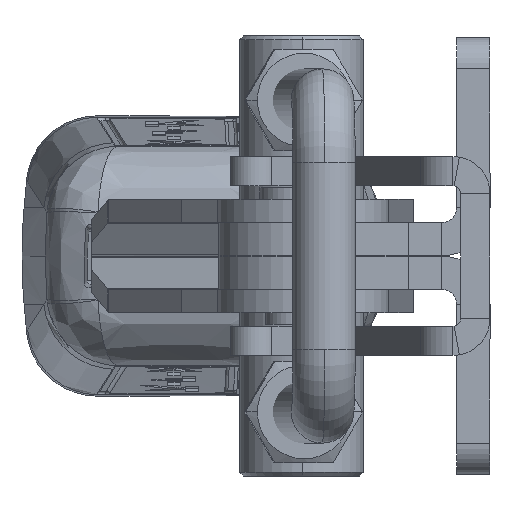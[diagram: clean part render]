
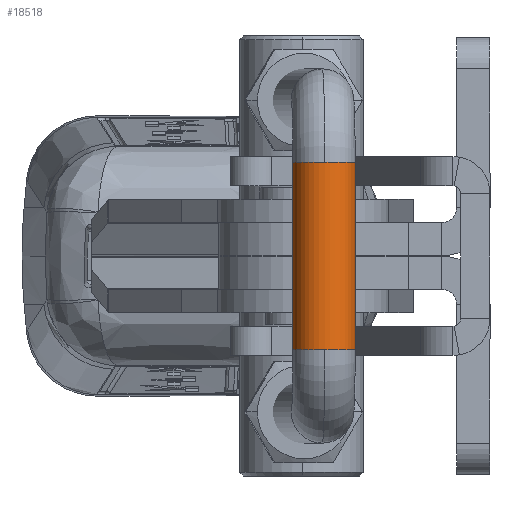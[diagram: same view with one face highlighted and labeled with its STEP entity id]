
A CAD part, left-side view. The second image highlights one B-rep face of the part: STEP entity #18518.
In plain terms, the highlighted cylindrical face has radius 4 mm (diameter 8 mm), a partial arc.
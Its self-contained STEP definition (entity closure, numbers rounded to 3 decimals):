
#593 = DIRECTION ( 'NONE',  ( 1., 0., 0. ) ) ;
#1048 = EDGE_CURVE ( 'NONE', #14113, #15171, #17220, .T. ) ;
#1266 = DIRECTION ( 'NONE',  ( 1., 0., 0. ) ) ;
#2029 = VERTEX_POINT ( 'NONE', #8994 ) ;
#2319 = VERTEX_POINT ( 'NONE', #23281 ) ;
#2573 = EDGE_CURVE ( 'NONE', #15171, #2319, #2668, .T. ) ;
#2668 = CIRCLE ( 'NONE', #24299, 4. ) ;
#3574 = VECTOR ( 'NONE', #22548, 1000. ) ;
#4577 = CARTESIAN_POINT ( 'NONE',  ( 12., 134., 0. ) ) ;
#4583 = AXIS2_PLACEMENT_3D ( 'NONE', #11923, #593, #13841 ) ;
#5147 = CYLINDRICAL_SURFACE ( 'NONE', #14851, 4. ) ;
#6485 = CARTESIAN_POINT ( 'NONE',  ( 12., 130., -4. ) ) ;
#8118 = CARTESIAN_POINT ( 'NONE',  ( -12., 130., 0. ) ) ;
#8742 = CIRCLE ( 'NONE', #12802, 4. ) ;
#8799 = DIRECTION ( 'NONE',  ( 1., 0., 0. ) ) ;
#8994 = CARTESIAN_POINT ( 'NONE',  ( -12., 130., -4. ) ) ;
#9219 = LINE ( 'NONE', #9299, #3574 ) ;
#9299 = CARTESIAN_POINT ( 'NONE',  ( -12., 130., 4. ) ) ;
#10201 = ORIENTED_EDGE ( 'NONE', *, *, #10862, .F. ) ;
#10862 = EDGE_CURVE ( 'NONE', #2029, #14113, #24529, .T. ) ;
#11173 = DIRECTION ( 'NONE',  ( 1., 0., 0. ) ) ;
#11888 = DIRECTION ( 'NONE',  ( 0., 0., -1. ) ) ;
#11923 = CARTESIAN_POINT ( 'NONE',  ( 12., 130., 0. ) ) ;
#12593 = CARTESIAN_POINT ( 'NONE',  ( -12., 130., 0. ) ) ;
#12649 = ORIENTED_EDGE ( 'NONE', *, *, #2573, .F. ) ;
#12802 = AXIS2_PLACEMENT_3D ( 'NONE', #20142, #8799, #22033 ) ;
#13841 = DIRECTION ( 'NONE',  ( 0., 0., 1. ) ) ;
#14113 = VERTEX_POINT ( 'NONE', #6485 ) ;
#14228 = ORIENTED_EDGE ( 'NONE', *, *, #21456, .T. ) ;
#14491 = DIRECTION ( 'NONE',  ( 0., 0., 1. ) ) ;
#14710 = CARTESIAN_POINT ( 'NONE',  ( -12., 130., 4. ) ) ;
#14851 = AXIS2_PLACEMENT_3D ( 'NONE', #8118, #19368, #11888 ) ;
#15171 = VERTEX_POINT ( 'NONE', #4577 ) ;
#16633 = ORIENTED_EDGE ( 'NONE', *, *, #1048, .F. ) ;
#16830 = ORIENTED_EDGE ( 'NONE', *, *, #18266, .T. ) ;
#17220 = CIRCLE ( 'NONE', #4583, 4. ) ;
#17793 = CIRCLE ( 'NONE', #18582, 4. ) ;
#18266 = EDGE_CURVE ( 'NONE', #20515, #22294, #8742, .T. ) ;
#18518 = ADVANCED_FACE ( 'NONE', ( #20291 ), #5147, .T. ) ;
#18558 = CARTESIAN_POINT ( 'NONE',  ( -12., 130., -4. ) ) ;
#18582 = AXIS2_PLACEMENT_3D ( 'NONE', #12593, #1266, #14491 ) ;
#18645 = DIRECTION ( 'NONE',  ( 1., 0., 0. ) ) ;
#19368 = DIRECTION ( 'NONE',  ( 1., 0., 0. ) ) ;
#19513 = VECTOR ( 'NONE', #18645, 1000. ) ;
#20142 = CARTESIAN_POINT ( 'NONE',  ( -12., 130., 0. ) ) ;
#20291 = FACE_OUTER_BOUND ( 'NONE', #20583, .T. ) ;
#20380 = CARTESIAN_POINT ( 'NONE',  ( -12., 134., 0. ) ) ;
#20515 = VERTEX_POINT ( 'NONE', #20380 ) ;
#20583 = EDGE_LOOP ( 'NONE', ( #23240, #16830, #14228, #12649, #16633, #10201 ) ) ;
#21456 = EDGE_CURVE ( 'NONE', #22294, #2319, #9219, .T. ) ;
#21804 = EDGE_CURVE ( 'NONE', #2029, #20515, #17793, .T. ) ;
#22033 = DIRECTION ( 'NONE',  ( 0., 0., 1. ) ) ;
#22294 = VERTEX_POINT ( 'NONE', #14710 ) ;
#22517 = CARTESIAN_POINT ( 'NONE',  ( 12., 130., 0. ) ) ;
#22548 = DIRECTION ( 'NONE',  ( 1., 0., 0. ) ) ;
#23240 = ORIENTED_EDGE ( 'NONE', *, *, #21804, .T. ) ;
#23281 = CARTESIAN_POINT ( 'NONE',  ( 12., 130., 4. ) ) ;
#24299 = AXIS2_PLACEMENT_3D ( 'NONE', #22517, #11173, #24419 ) ;
#24419 = DIRECTION ( 'NONE',  ( 0., 0., 1. ) ) ;
#24529 = LINE ( 'NONE', #18558, #19513 ) ;
